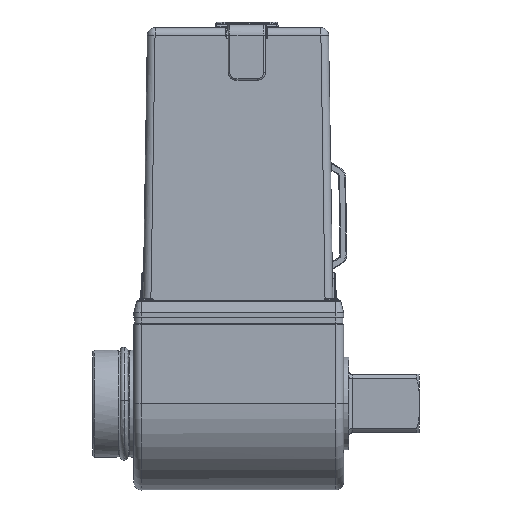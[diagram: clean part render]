
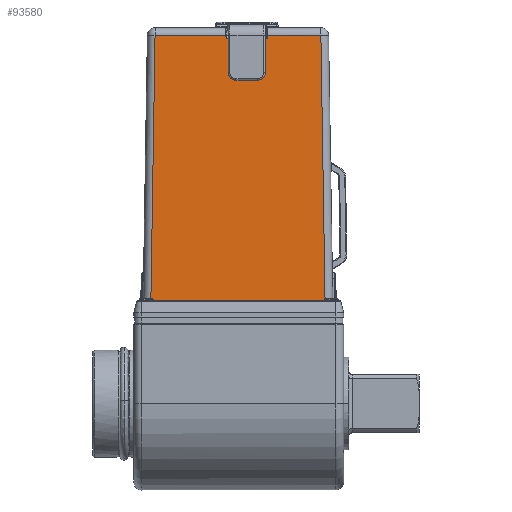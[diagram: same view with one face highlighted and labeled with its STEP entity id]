
A CAD part, left-side view. The second image highlights one B-rep face of the part: STEP entity #93580.
In plain terms, the highlighted planar face has unit normal (-1, 0, 0.016).
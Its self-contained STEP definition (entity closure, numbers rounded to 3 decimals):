
#10042=DIRECTION('',(0.,-1.,0.));
#10043=VECTOR('',#10042,56.64);
#10044=CARTESIAN_POINT('',(-20.57,28.57,
28.418));
#10045=LINE('',#10044,#10043);
#10075=DIRECTION('',(0.016,-0.016,1.));
#10076=VECTOR('',#10075,91.062);
#10077=CARTESIAN_POINT('',(-20.57,28.57,
28.418));
#10078=LINE('',#10077,#10076);
#10079=CARTESIAN_POINT('',(-19.329,-8.481,
107.418));
#10080=CARTESIAN_POINT('',(-19.271,-8.491,
111.09));
#10081=CARTESIAN_POINT('',(-19.213,-8.5,
114.762));
#10082=CARTESIAN_POINT('',(-19.156,-8.508,
118.434));
#10084=DIRECTION('',(-0.016,-0.016,-1.));
#10085=VECTOR('',#10084,91.062);
#10086=CARTESIAN_POINT('',(-19.139,-26.64,
119.457));
#10087=LINE('',#10086,#10085);
#10088=DIRECTION('',(0.,1.,0.));
#10089=VECTOR('',#10088,23.004);
#10090=CARTESIAN_POINT('',(-19.139,4.136,
119.457));
#10091=LINE('',#10090,#10089);
#27942=DIRECTION('',(0.,1.,0.));
#27943=VECTOR('',#27942,17.274);
#27944=CARTESIAN_POINT('',(-19.139,-26.64,
119.457));
#27945=LINE('',#27944,#27943);
#27965=DIRECTION('',(-0.016,0.017,-1.));
#27966=VECTOR('',#27965,1.024);
#27967=CARTESIAN_POINT('',(-19.139,-9.366,
119.457));
#27968=LINE('',#27967,#27966);
#27974=DIRECTION('',(0.,1.,0.));
#27975=VECTOR('',#27974,0.799);
#27976=CARTESIAN_POINT('',(-19.156,3.319,
118.434));
#27977=LINE('',#27976,#27975);
#27994=CARTESIAN_POINT('',(-19.156,-9.348,
118.434));
#27996=DIRECTION('',(0.,1.,0.));
#27997=VECTOR('',#27996,0.84);
#27998=CARTESIAN_POINT('',(-19.156,-9.348,
118.434));
#27999=LINE('',#27998,#27997);
#28020=CARTESIAN_POINT('',(-19.329,-8.481,
107.418));
#28021=CARTESIAN_POINT('',(-19.333,-8.48,
107.162));
#28022=CARTESIAN_POINT('',(-19.34,-8.4,
106.676));
#28023=CARTESIAN_POINT('',(-19.351,-8.056,
106.));
#28024=CARTESIAN_POINT('',(-19.359,-7.524,
105.467));
#28025=CARTESIAN_POINT('',(-19.365,-6.847,
105.123));
#28026=CARTESIAN_POINT('',(-19.366,-6.361,
105.044));
#28027=CARTESIAN_POINT('',(-19.366,-6.104,
105.043));
#28044=CARTESIAN_POINT('',(-19.366,-6.104,
105.043));
#28045=CARTESIAN_POINT('',(-19.366,-5.327,
105.041));
#28046=CARTESIAN_POINT('',(-19.366,-3.771,
105.032));
#28047=CARTESIAN_POINT('',(-19.366,-1.438,
105.039));
#28048=CARTESIAN_POINT('',(-19.366,0.118,
105.029));
#28049=CARTESIAN_POINT('',(-19.366,0.896,
105.028));
#28055=CARTESIAN_POINT('',(-19.366,0.896,
105.028));
#28056=CARTESIAN_POINT('',(-19.366,1.154,
105.027));
#28057=CARTESIAN_POINT('',(-19.365,1.645,
105.105));
#28058=CARTESIAN_POINT('',(-19.36,2.329,
105.45));
#28059=CARTESIAN_POINT('',(-19.351,2.868,
105.987));
#28060=CARTESIAN_POINT('',(-19.34,3.216,
106.67));
#28061=CARTESIAN_POINT('',(-19.333,3.297,
107.16));
#28062=CARTESIAN_POINT('',(-19.329,3.297,
107.419));
#28079=CARTESIAN_POINT('',(-19.329,3.297,
107.419));
#28080=CARTESIAN_POINT('',(-19.309,3.3,
108.643));
#28081=CARTESIAN_POINT('',(-19.271,3.313,
111.09));
#28082=CARTESIAN_POINT('',(-19.213,3.303,
114.762));
#28083=CARTESIAN_POINT('',(-19.175,3.317,
117.21));
#28084=CARTESIAN_POINT('',(-19.156,3.319,
118.434));
#28086=CARTESIAN_POINT('',(-19.156,3.319,
118.434));
#28206=DIRECTION('',(0.016,0.017,1.));
#28207=VECTOR('',#28206,1.024);
#28208=CARTESIAN_POINT('',(-19.156,4.118,
118.434));
#28209=LINE('',#28208,#28207);
#66421=VERTEX_POINT('',#28086);
#66422=CARTESIAN_POINT('',(-19.156,4.118,
118.434));
#66423=VERTEX_POINT('',#66422);
#66425=VERTEX_POINT('',#27994);
#66426=CARTESIAN_POINT('',(-19.156,-8.508,
118.434));
#66427=VERTEX_POINT('',#66426);
#66432=VERTEX_POINT('',#10079);
#66437=CARTESIAN_POINT('',(-20.57,28.57,
28.418));
#66438=CARTESIAN_POINT('',(-20.57,-28.07,
28.418));
#66439=VERTEX_POINT('',#66437);
#66440=VERTEX_POINT('',#66438);
#66441=CARTESIAN_POINT('',(-19.139,27.14,
119.457));
#66442=VERTEX_POINT('',#66441);
#66443=CARTESIAN_POINT('',(-19.139,4.136,
119.457));
#66444=VERTEX_POINT('',#66443);
#66445=VERTEX_POINT('',#28079);
#66446=VERTEX_POINT('',#28055);
#66447=VERTEX_POINT('',#28044);
#66448=CARTESIAN_POINT('',(-19.139,-9.366,
119.457));
#66449=VERTEX_POINT('',#66448);
#66450=CARTESIAN_POINT('',(-19.139,-26.64,
119.457));
#66451=VERTEX_POINT('',#66450);
#93547=CARTESIAN_POINT('',(-20.5,32.146,32.85));
#93548=DIRECTION('',(-1.,0.,0.016));
#93549=DIRECTION('',(0.,1.,0.));
#93550=AXIS2_PLACEMENT_3D('',#93547,#93548,#93549);
#93551=PLANE('',#93550);
#93552=ORIENTED_EDGE('',*,*,#93516,.F.);
#93553=ORIENTED_EDGE('',*,*,#88543,.T.);
#93555=ORIENTED_EDGE('',*,*,#93554,.F.);
#93557=ORIENTED_EDGE('',*,*,#93556,.F.);
#93559=ORIENTED_EDGE('',*,*,#93558,.F.);
#93561=ORIENTED_EDGE('',*,*,#93560,.F.);
#93563=ORIENTED_EDGE('',*,*,#93562,.F.);
#93565=ORIENTED_EDGE('',*,*,#93564,.F.);
#93567=ORIENTED_EDGE('',*,*,#93566,.F.);
#93569=ORIENTED_EDGE('',*,*,#93568,.T.);
#93571=ORIENTED_EDGE('',*,*,#93570,.F.);
#93573=ORIENTED_EDGE('',*,*,#93572,.F.);
#93575=ORIENTED_EDGE('',*,*,#93574,.F.);
#93577=ORIENTED_EDGE('',*,*,#93576,.T.);
#93578=EDGE_LOOP('',(#93552,#93553,#93555,#93557,#93559,#93561,#93563,#93565,
#93567,#93569,#93571,#93573,#93575,#93577));
#93579=FACE_OUTER_BOUND('',#93578,.F.);
#10083=B_SPLINE_CURVE_WITH_KNOTS('',3,(#10079,#10080,#10081,#10082),
.UNSPECIFIED.,.F.,.F.,(4,4),(0.,1.),.UNSPECIFIED.);
#28028=B_SPLINE_CURVE_WITH_KNOTS('',3,(#28020,#28021,#28022,#28023,#28024,
#28025,#28026,#28027),.UNSPECIFIED.,.F.,.F.,(4,1,1,1,1,4),(0.,0.2,0.4,
0.6,0.8,1.),.UNSPECIFIED.);
#28050=B_SPLINE_CURVE_WITH_KNOTS('',3,(#28044,#28045,#28046,#28047,#28048,
#28049),.UNSPECIFIED.,.F.,.F.,(4,1,1,4),(0.,0.333,
0.667,1.),.UNSPECIFIED.);
#28063=B_SPLINE_CURVE_WITH_KNOTS('',3,(#28055,#28056,#28057,#28058,#28059,
#28060,#28061,#28062),.UNSPECIFIED.,.F.,.F.,(4,1,1,1,1,4),(0.,0.2,0.4,
0.6,0.8,1.),.UNSPECIFIED.);
#28085=B_SPLINE_CURVE_WITH_KNOTS('',3,(#28079,#28080,#28081,#28082,#28083,
#28084),.UNSPECIFIED.,.F.,.F.,(4,1,1,4),(0.,0.333,
0.667,1.),.UNSPECIFIED.);
#88543=EDGE_CURVE('',#66439,#66442,#10078,.T.);
#93516=EDGE_CURVE('',#66439,#66440,#10045,.T.);
#93554=EDGE_CURVE('',#66444,#66442,#10091,.T.);
#93556=EDGE_CURVE('',#66423,#66444,#28209,.T.);
#93558=EDGE_CURVE('',#66421,#66423,#27977,.T.);
#93560=EDGE_CURVE('',#66445,#66421,#28085,.T.);
#93562=EDGE_CURVE('',#66446,#66445,#28063,.T.);
#93564=EDGE_CURVE('',#66447,#66446,#28050,.T.);
#93566=EDGE_CURVE('',#66432,#66447,#28028,.T.);
#93568=EDGE_CURVE('',#66432,#66427,#10083,.T.);
#93570=EDGE_CURVE('',#66425,#66427,#27999,.T.);
#93572=EDGE_CURVE('',#66449,#66425,#27968,.T.);
#93574=EDGE_CURVE('',#66451,#66449,#27945,.T.);
#93576=EDGE_CURVE('',#66451,#66440,#10087,.T.);
#93580=ADVANCED_FACE('',(#93579),#93551,.T.);
